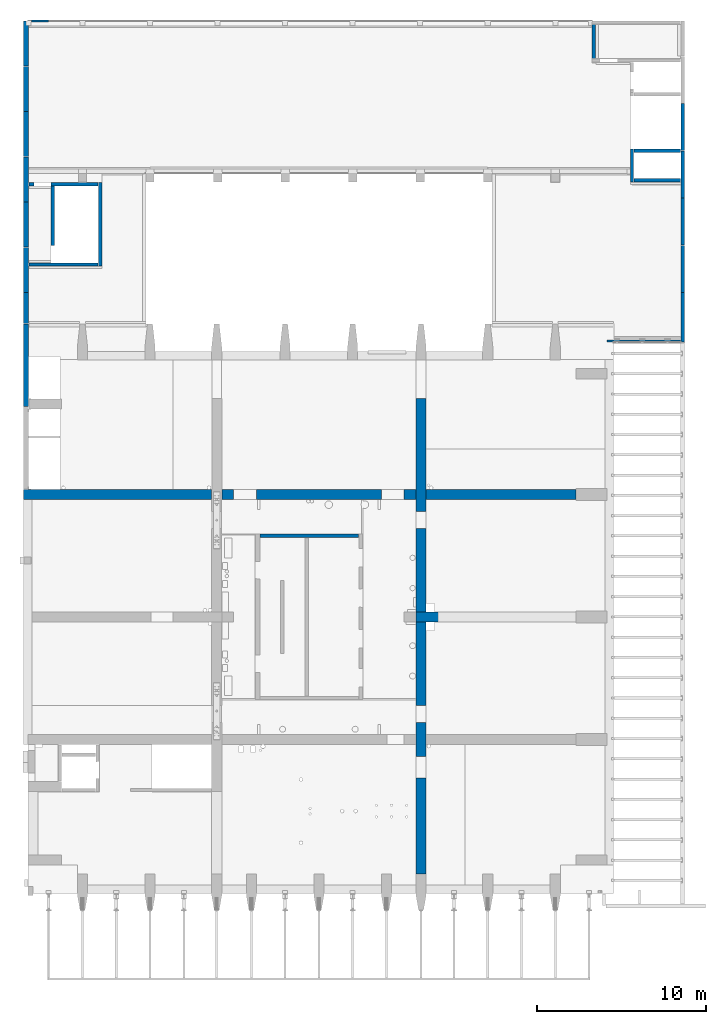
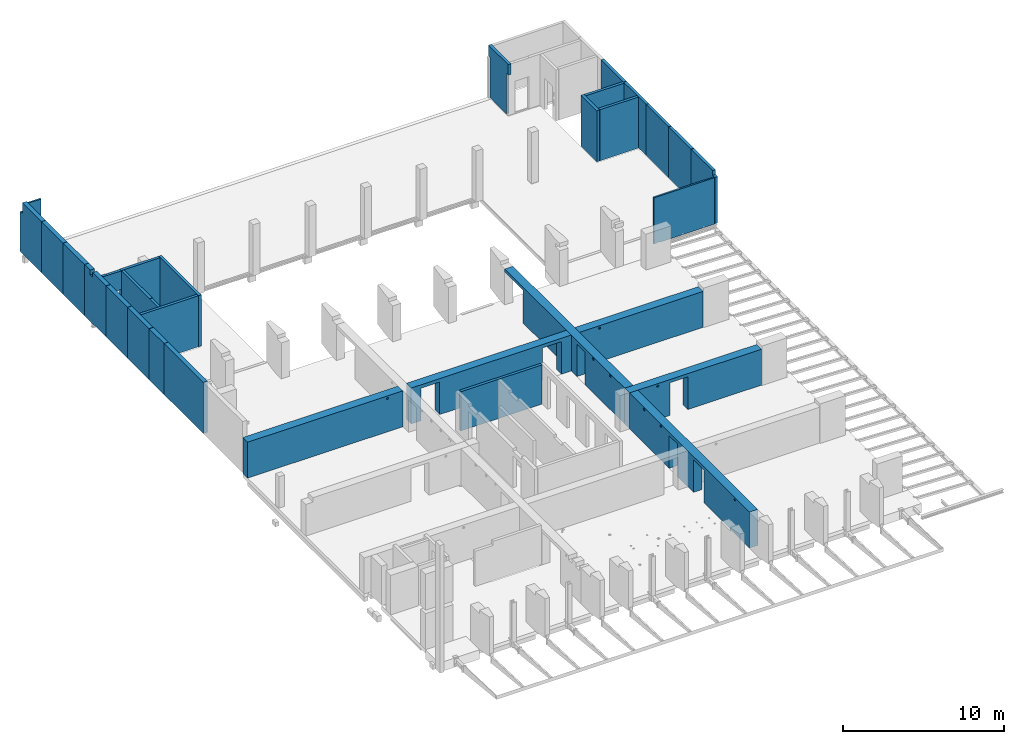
# One storey, part 21 of 27: 28 walls, 32 openings.
"""IFC2X3 building model written with IfcOpenShell, lengths in millimetres."""

from ifc_helpers import new_model, entity, si_unit, converted_unit, derived_unit, direction, frame, frame_2d, origin, origin_2d_with_axis, place, context, subcontext, project, spatial, polyline, rectangle, circle, outline, extrude, faceted_brep, material, layer, layer_set, layer_usage, type_object, element, save


model = new_model("IFC2X3")

# Units and contexts
model_context = context("Model", 3, precision=0.01, world=origin(), true_north=direction((6.12303176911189e-17, 1.0)))
body_context = subcontext(model_context, "Body", "Model", "MODEL_VIEW")
ifc_project = project(units=[si_unit("LENGTHUNIT", "METRE", prefix="MILLI"), si_unit("AREAUNIT", "SQUARE_METRE"), si_unit("VOLUMEUNIT", "CUBIC_METRE"), converted_unit("PLANEANGLEUNIT", "DEGREE", entity("IfcRatioMeasure", 0.0174532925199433), si_unit("PLANEANGLEUNIT", "RADIAN"), dimensions=[0, 0, 0, 0, 0, 0, 0]), si_unit("MASSUNIT", "GRAM", prefix="KILO"), derived_unit("MASSDENSITYUNIT", [(si_unit("MASSUNIT", "GRAM", prefix="KILO"), 1), (si_unit("LENGTHUNIT", "METRE"), -3)]), si_unit("TIMEUNIT", "SECOND"), si_unit("FREQUENCYUNIT", "HERTZ"), si_unit("THERMODYNAMICTEMPERATUREUNIT", "DEGREE_CELSIUS"), derived_unit("THERMALTRANSMITTANCEUNIT", [(si_unit("MASSUNIT", "GRAM", prefix="KILO"), 1), (si_unit("THERMODYNAMICTEMPERATUREUNIT", "KELVIN"), -1), (si_unit("TIMEUNIT", "SECOND"), -3)]), derived_unit("VOLUMETRICFLOWRATEUNIT", [(si_unit("LENGTHUNIT", "METRE"), 3), (si_unit("TIMEUNIT", "SECOND"), -1)]), si_unit("ELECTRICCURRENTUNIT", "AMPERE"), si_unit("ELECTRICVOLTAGEUNIT", "VOLT"), si_unit("POWERUNIT", "WATT"), si_unit("FORCEUNIT", "NEWTON", prefix="KILO"), si_unit("ILLUMINANCEUNIT", "LUX"), si_unit("LUMINOUSFLUXUNIT", "LUMEN"), si_unit("LUMINOUSINTENSITYUNIT", "CANDELA"), derived_unit("USERDEFINED", [(si_unit("MASSUNIT", "GRAM", prefix="KILO"), -1), (si_unit("LENGTHUNIT", "METRE"), -2), (si_unit("TIMEUNIT", "SECOND"), 3), (si_unit("LUMINOUSFLUXUNIT", "LUMEN"), 1)]), derived_unit("LINEARVELOCITYUNIT", [(si_unit("LENGTHUNIT", "METRE"), 1), (si_unit("TIMEUNIT", "SECOND"), -1)]), si_unit("PRESSUREUNIT", "PASCAL"), derived_unit("USERDEFINED", [(si_unit("LENGTHUNIT", "METRE"), -2), (si_unit("MASSUNIT", "GRAM", prefix="KILO"), 1), (si_unit("TIMEUNIT", "SECOND"), -2)])], contexts=[model_context])

# Site, building, storey
site_placement = place(None, origin())
site = spatial("IfcSite", under=ifc_project, at=site_placement, Name="Default", CompositionType="ELEMENT")
building_placement = place(site_placement, origin())
building = spatial("IfcBuilding", under=site, at=building_placement, Name="niet gebruiken", CompositionType="ELEMENT")
storey_placement = place(building_placement, frame((0.0, 0.0, 6000.0)))
storey = spatial("IfcBuildingStorey", under=building, at=storey_placement, Name="01 eerste verdieping", CompositionType="ELEMENT", Elevation=6000.0)

# Wall, opening
ifc_material_1 = material(Name="NLRS_f2_beton prefab")
ifc_layer_1 = layer(ifc_material_1, 200.0)
ifc_layer_set_1 = layer_set([ifc_layer_1], Name="Basic Wall:NLRS_21.21_WA_beton prefab d=200_gen")
ifc_layer_usage_1 = layer_usage(ifc_layer_set_1, "AXIS2", "NEGATIVE", 100.0)
wall_type_1 = type_object("IfcWallType", Name="Basic Wall:NLRS_21.21_WA_beton prefab d=200_gen", PredefinedType="STANDARD", material=ifc_layer_set_1)
wall_1_placement = place(storey_placement, frame((163290.0, 33770.0, -50.0), z_axis=(0.0, 0.0, 1.0), x_axis=(0.0, 1.0, 0.0)))
wall_1 = element("IfcWallStandardCase", 1, at=wall_1_placement, inside=storey, type_object=wall_type_1, material=ifc_layer_usage_1, Name="Basic Wall:NLRS_21.21_WA_beton prefab d=200_gen", ObjectType="Basic Wall:NLRS_21.21_WA_beton prefab d=200_gen", context=body_context, shape_type="SweptSolid", body=[
    extrude(rectangle(XDim=2930.00000000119, YDim=200.000000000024, at=frame_2d((1465.00000000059, 0.0), x_axis=(-1.0, 0.0))), origin(), (0.0, 0.0, 1.0), 3880.0),
])
opening_1_placement = place(wall_1_placement, origin())
element("IfcOpeningElement", 2, at=opening_1_placement, cuts=wall_1, Name="Basic Wall:NLRS_21.21_WA_beton prefab d=200_gen", ObjectType="Opening", context=body_context, shape_type="SweptSolid", body=[
    extrude(rectangle(XDim=359.999999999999, YDim=256.999999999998, at=frame_2d((-2.1600499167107e-12, 0.0), x_axis=(0.0, 1.0))), frame((128.499999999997, 100.0, 3700.0), z_axis=(0.0, -1.0, 0.0), x_axis=(-1.0, 0.0, 0.0)), (0.0, 0.0, 1.0), 200.0),
])

# Walls
ifc_layer_usage_2 = layer_usage(ifc_layer_set_1, "AXIS2", "NEGATIVE", 100.0)
wall_2_placement = place(storey_placement, frame((163290.0, 36720.0, -50.0), z_axis=(0.0, 0.0, 1.0), x_axis=(0.0, 1.0, 0.0)))
element("IfcWallStandardCase", 3, at=wall_2_placement, inside=storey, type_object=wall_type_1, material=ifc_layer_usage_2, Name="Basic Wall:NLRS_21.21_WA_beton prefab d=200_gen", ObjectType="Basic Wall:NLRS_21.21_WA_beton prefab d=200_gen", context=body_context, shape_type="SweptSolid", body=[
    extrude(rectangle(XDim=2780.0, YDim=200.000000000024, at=frame_2d((1390.0, 0.0), x_axis=(-1.0, 0.0))), origin(), (0.0, 0.0, 1.0), 3880.0),
])
ifc_layer_usage_3 = layer_usage(ifc_layer_set_1, "AXIS2", "NEGATIVE", 100.0)
wall_3_placement = place(storey_placement, frame((163290.0, 42320.0, -50.0), z_axis=(0.0, 0.0, 1.0), x_axis=(0.0, 1.0, 0.0)))
element("IfcWallStandardCase", 4, at=wall_3_placement, inside=storey, type_object=wall_type_1, material=ifc_layer_usage_3, Name="Basic Wall:NLRS_21.21_WA_beton prefab d=200_gen", ObjectType="Basic Wall:NLRS_21.21_WA_beton prefab d=200_gen", context=body_context, shape_type="SweptSolid", body=[
    extrude(rectangle(XDim=2780.0, YDim=200.000000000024, at=frame_2d((1390.0, 0.0), x_axis=(-1.0, 0.0))), origin(), (0.0, 0.0, 1.0), 3880.0),
])
ifc_layer_usage_4 = layer_usage(ifc_layer_set_1, "AXIS2", "NEGATIVE", 100.0)
wall_4_placement = place(storey_placement, frame((163290.0, 39520.0, -50.0), z_axis=(0.0, 0.0, 1.0), x_axis=(0.0, 1.0, 0.0)))
element("IfcWallStandardCase", 5, at=wall_4_placement, inside=storey, type_object=wall_type_1, material=ifc_layer_usage_4, Name="Basic Wall:NLRS_21.21_WA_beton prefab d=200_gen", ObjectType="Basic Wall:NLRS_21.21_WA_beton prefab d=200_gen", context=body_context, shape_type="SweptSolid", body=[
    extrude(rectangle(XDim=2780.0, YDim=200.000000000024, at=frame_2d((1390.0, 0.0), x_axis=(-1.0, 0.0))), origin(), (0.0, 0.0, 1.0), 3880.0),
])
ifc_layer_usage_5 = layer_usage(ifc_layer_set_1, "AXIS2", "NEGATIVE", 100.0)
wall_5_placement = place(storey_placement, frame((163290.0, 45120.0, -50.0), z_axis=(0.0, 0.0, 1.0), x_axis=(0.0, 1.0, 0.0)))
element("IfcWallStandardCase", 6, at=wall_5_placement, inside=storey, type_object=wall_type_1, material=ifc_layer_usage_5, Name="Basic Wall:NLRS_21.21_WA_beton prefab d=200_gen", ObjectType="Basic Wall:NLRS_21.21_WA_beton prefab d=200_gen", context=body_context, shape_type="SweptSolid", body=[
    extrude(rectangle(XDim=2780.0, YDim=200.000000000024, at=frame_2d((1390.0, 0.0), x_axis=(-1.0, 0.0))), origin(), (0.0, 0.0, 1.0), 3880.0),
])

# Wall, openings
ifc_material_2 = material(Name="NLRS_f2_beton ihwg")
ifc_layer_2 = layer(ifc_material_2, 600.0)
ifc_layer_set_2 = layer_set([ifc_layer_2], Name="Basic Wall:NLRS_22.21_WA_beton ihwg d=600_gen")
ifc_layer_usage_6 = layer_usage(ifc_layer_set_2, "AXIS2", "NEGATIVE", 300.0)
wall_type_2 = type_object("IfcWallType", Name="Basic Wall:NLRS_22.21_WA_beton ihwg d=600_gen", PredefinedType="STANDARD", material=ifc_layer_set_2)
wall_6_placement = place(storey_placement, frame((124250.0, 24750.0, -90.0)))
wall_6 = element("IfcWallStandardCase", 7, at=wall_6_placement, inside=storey, type_object=wall_type_2, material=ifc_layer_usage_6, Name="Basic Wall:NLRS_22.21_WA_beton ihwg d=600_gen", ObjectType="Basic Wall:NLRS_22.21_WA_beton ihwg d=600_gen", context=body_context, shape_type="SweptSolid", body=[
    extrude(rectangle(XDim=32730.000000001, YDim=600.000000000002, at=frame_2d((16365.0000000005, -1.70530256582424e-12), x_axis=(-1.0, 0.0))), origin(), (0.0, 0.0, 1.0), 2730.0),
])
opening_2_placement = place(storey_placement, frame((124250.0, 24750.0, -90.0)))
element("IfcOpeningElement", 8, at=opening_2_placement, cuts=wall_6, Name="Basic Wall:NLRS_22.21_WA_beton ihwg d=600_gen:1", ObjectType="Opening", context=body_context, shape_type="SweptSolid", body=[
    extrude(rectangle(XDim=2730.0, YDim=599.999999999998, at=frame_2d((5.6843418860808e-13, 2.1600499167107e-12), x_axis=(1.0, 0.0))), frame((23250.0, 0.0, 1365.0), z_axis=(1.0, 0.0, 0.0), x_axis=(0.0, 0.0, -1.0)), (0.0, 0.0, 1.0), 600.000000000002),
])
opening_3_placement = place(storey_placement, frame((124250.0, 24750.0, -90.0)))
element("IfcOpeningElement", 9, at=opening_3_placement, cuts=wall_6, Name="Basic Wall:NLRS_22.21_WA_beton ihwg d=600_gen:2", ObjectType="Opening", context=body_context, shape_type="SweptSolid", body=[
    extrude(rectangle(XDim=2730.0, YDim=599.999999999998, at=frame_2d((5.6843418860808e-13, 2.1600499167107e-12), x_axis=(1.0, 0.0))), frame((11150.0, 0.0, 1365.0), z_axis=(1.0, 0.0, 0.0), x_axis=(0.0, 0.0, -1.0)), (0.0, 0.0, 1.0), 600.000000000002),
])
opening_4_placement = place(wall_6_placement, origin())
element("IfcOpeningElement", 10, at=opening_4_placement, cuts=wall_6, Name="Basic Wall:NLRS_22.21_WA_beton ihwg d=600_gen", ObjectType="Opening", context=body_context, shape_type="SweptSolid", body=[
    extrude(rectangle(XDim=2475.0, YDim=1350.00000000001, at=frame_2d((-5.6843418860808e-13, 0.0), x_axis=(1.0, 0.0))), frame((13125.0, -300.0, 1237.5), z_axis=(0.0, 1.0, 0.0), x_axis=(0.0, 0.0, -1.0)), (0.0, 0.0, 1.0), 600.000000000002),
])
opening_5_placement = place(wall_6_placement, origin())
element("IfcOpeningElement", 11, at=opening_5_placement, cuts=wall_6, Name="Basic Wall:NLRS_22.21_WA_beton ihwg d=600_gen", ObjectType="Opening", context=body_context, shape_type="SweptSolid", body=[
    extrude(rectangle(XDim=2475.0, YDim=1350.00000000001, at=frame_2d((-5.6843418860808e-13, 0.0), x_axis=(1.0, 0.0))), frame((21875.0, -300.0, 1237.5), z_axis=(0.0, 1.0, 0.0), x_axis=(0.0, 0.0, -1.0)), (0.0, 0.0, 1.0), 600.000000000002),
])
opening_6_placement = place(wall_6_placement, origin())
element("IfcOpeningElement", 12, at=opening_6_placement, cuts=wall_6, Name="Basic Wall:NLRS_22.21_WA_beton ihwg d=600_gen", ObjectType="Opening", context=body_context, shape_type="SweptSolid", body=[
    extrude(circle(Radius=80.0, at=origin_2d_with_axis()), frame((25280.0, -300.0, 2540.0), z_axis=(0.0, 1.0, 0.0), x_axis=(1.0, 0.0, 0.0)), (0.0, 0.0, 1.0), 600.000000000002),
])
opening_7_placement = place(wall_6_placement, origin())
element("IfcOpeningElement", 13, at=opening_7_placement, cuts=wall_6, Name="Basic Wall:NLRS_22.21_WA_beton ihwg d=600_gen", ObjectType="Opening", context=body_context, shape_type="SweptSolid", body=[
    extrude(circle(Radius=80.0, at=origin_2d_with_axis()), frame((10050.0, -300.0, 2540.0), z_axis=(0.0, 1.0, 0.0), x_axis=(1.0, 0.0, 0.0)), (0.0, 0.0, 1.0), 600.000000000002),
])

ifc_layer_usage_7 = layer_usage(ifc_layer_set_2, "AXIS2", "NEGATIVE", 300.0)
wall_7_placement = place(storey_placement, frame((147800.0, 2270.0, -90.0), z_axis=(0.0, 0.0, 1.0), x_axis=(0.0, 1.0, 0.0)))
wall_7 = element("IfcWallStandardCase", 14, at=wall_7_placement, inside=storey, type_object=wall_type_2, material=ifc_layer_usage_7, Name="Basic Wall:NLRS_22.21_WA_beton ihwg d=600_gen", ObjectType="Basic Wall:NLRS_22.21_WA_beton ihwg d=600_gen", context=body_context, shape_type="SweptSolid", body=[
    extrude(rectangle(XDim=30460.0000000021, YDim=600.000000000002, at=frame_2d((15230.000000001, -5.6843418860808e-14), x_axis=(-1.0, 0.0))), origin(), (0.0, 0.0, 1.0), 2730.0),
])
opening_8_placement = place(storey_placement, frame((147800.0, 2270.0, -90.0), z_axis=(0.0, 0.0, 1.0), x_axis=(0.0, 1.0, 0.0)))
element("IfcOpeningElement", 15, at=opening_8_placement, cuts=wall_7, Name="Basic Wall:NLRS_22.21_WA_beton ihwg d=600_gen:1", ObjectType="Opening", context=body_context, shape_type="SweptSolid", body=[
    extrude(rectangle(XDim=2730.0, YDim=600.000000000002, at=origin_2d_with_axis()), frame((14930.0, 0.0, 1365.0), z_axis=(1.0, 0.0, 0.0), x_axis=(0.0, 0.0, -1.0)), (0.0, 0.0, 1.0), 600.0),
])
opening_9_placement = place(wall_7_placement, origin())
element("IfcOpeningElement", 16, at=opening_9_placement, cuts=wall_7, Name="Basic Wall:NLRS_22.21_WA_beton ihwg d=600_gen", ObjectType="Opening", context=body_context, shape_type="SweptSolid", body=[
    extrude(rectangle(XDim=2475.0, YDim=1016.0, at=frame_2d((5.6843418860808e-13, -2.1600499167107e-12), x_axis=(1.0, 0.0))), frame((20972.0, -300.0, 1237.5), z_axis=(0.0, 1.0, 0.0), x_axis=(0.0, 0.0, -1.0)), (0.0, 0.0, 1.0), 600.000000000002),
])
opening_10_placement = place(wall_7_placement, origin())
element("IfcOpeningElement", 17, at=opening_10_placement, cuts=wall_7, Name="Basic Wall:NLRS_22.21_WA_beton ihwg d=600_gen", ObjectType="Opening", context=body_context, shape_type="SweptSolid", body=[
    extrude(rectangle(XDim=2475.0, YDim=1016.0, at=frame_2d((5.6843418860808e-13, 0.0), x_axis=(1.0, 0.0))), frame((9488.0, -300.0, 1237.5), z_axis=(0.0, 1.0, 0.0), x_axis=(0.0, 0.0, -1.0)), (0.0, 0.0, 1.0), 600.000000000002),
])
opening_11_placement = place(wall_7_placement, origin())
element("IfcOpeningElement", 18, at=opening_11_placement, cuts=wall_7, Name="Basic Wall:NLRS_22.21_WA_beton ihwg d=600_gen", ObjectType="Opening", context=body_context, shape_type="SweptSolid", body=[
    extrude(rectangle(XDim=2490.0, YDim=1300.0, at=frame_2d((-5.6843418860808e-13, 0.0), x_axis=(1.0, 0.0))), frame((6330.0, -300.0, 1245.0), z_axis=(0.0, 1.0, 0.0), x_axis=(0.0, 0.0, -1.0)), (0.0, 0.0, 1.0), 600.000000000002),
])
opening_12_placement = place(wall_7_placement, origin())
element("IfcOpeningElement", 19, at=opening_12_placement, cuts=wall_7, Name="Basic Wall:NLRS_22.21_WA_beton ihwg d=600_gen", ObjectType="Opening", context=body_context, shape_type="SweptSolid", body=[
    extrude(circle(Radius=80.0, at=origin_2d_with_axis()), frame((1839.99999503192, -300.0, 2540.0), z_axis=(0.0, 1.0, 0.0), x_axis=(1.0, 0.0, 0.0)), (0.0, 0.0, 1.0), 600.000000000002),
])
opening_13_placement = place(wall_7_placement, origin())
element("IfcOpeningElement", 20, at=opening_13_placement, cuts=wall_7, Name="Basic Wall:NLRS_22.21_WA_beton ihwg d=600_gen", ObjectType="Opening", context=body_context, shape_type="SweptSolid", body=[
    extrude(circle(Radius=100.0, at=origin_2d_with_axis()), frame((11030.0, -300.0, 2570.0000069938), z_axis=(0.0, 1.0, 0.0), x_axis=(1.0, 0.0, 0.0)), (0.0, 0.0, 1.0), 600.000000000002),
])
opening_14_placement = place(wall_7_placement, origin())
element("IfcOpeningElement", 21, at=opening_14_placement, cuts=wall_7, Name="Basic Wall:NLRS_22.21_WA_beton ihwg d=600_gen", ObjectType="Opening", context=body_context, shape_type="SweptSolid", body=[
    extrude(circle(Radius=100.0, at=origin_2d_with_axis()), frame((13125.0, -300.0, 2570.0), z_axis=(0.0, 1.0, 0.0), x_axis=(1.0, 0.0, 0.0)), (0.0, 0.0, 1.0), 600.000000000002),
])
opening_15_placement = place(wall_7_placement, origin())
element("IfcOpeningElement", 22, at=opening_15_placement, cuts=wall_7, Name="Basic Wall:NLRS_22.21_WA_beton ihwg d=600_gen", ObjectType="Opening", context=body_context, shape_type="SweptSolid", body=[
    extrude(circle(Radius=100.0, at=origin_2d_with_axis()), frame((17334.9988635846, -300.0, 2570.0), z_axis=(0.0, 1.0, 0.0), x_axis=(1.0, 0.0, 0.0)), (0.0, 0.0, 1.0), 600.000000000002),
])
opening_16_placement = place(wall_7_placement, origin())
element("IfcOpeningElement", 23, at=opening_16_placement, cuts=wall_7, Name="Basic Wall:NLRS_22.21_WA_beton ihwg d=600_gen", ObjectType="Opening", context=body_context, shape_type="SweptSolid", body=[
    extrude(circle(Radius=100.0, at=origin_2d_with_axis()), frame((19430.0, -300.0, 2570.0000069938), z_axis=(0.0, 1.0, 0.0), x_axis=(1.0, 0.0, 0.0)), (0.0, 0.0, 1.0), 600.000000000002),
])
opening_17_placement = place(wall_7_placement, origin())
element("IfcOpeningElement", 24, at=opening_17_placement, cuts=wall_7, Name="Basic Wall:NLRS_22.21_WA_beton ihwg d=600_gen", ObjectType="Opening", context=body_context, shape_type="SweptSolid", body=[
    extrude(rectangle(XDim=2490.0, YDim=2300.000000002, at=frame_2d((0.0, -5.6843418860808e-13), x_axis=(0.0, 1.0))), frame((29310.0, 300.0, 1245.0), z_axis=(0.0, -1.0, 0.0), x_axis=(1.0, 0.0, 0.0)), (0.0, 0.0, 1.0), 600.0),
])

ifc_layer_usage_8 = layer_usage(ifc_layer_set_2, "AXIS2", "NEGATIVE", 300.0)
wall_8_placement = place(storey_placement, frame((147500.0, 17500.0, -90.0)))
wall_8 = element("IfcWallStandardCase", 25, at=wall_8_placement, inside=storey, type_object=wall_type_2, material=ifc_layer_usage_8, Name="Basic Wall:NLRS_22.21_WA_beton ihwg d=600_gen", ObjectType="Basic Wall:NLRS_22.21_WA_beton ihwg d=600_gen", context=body_context, shape_type="SweptSolid", body=[
    extrude(rectangle(XDim=9479.99999999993, YDim=600.000000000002, at=frame_2d((4739.99999999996, -6.25277607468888e-13), x_axis=(-1.0, 0.0))), origin(), (0.0, 0.0, 1.0), 2730.0),
])
opening_18_placement = place(wall_8_placement, origin())
element("IfcOpeningElement", 26, at=opening_18_placement, cuts=wall_8, Name="Basic Wall:NLRS_22.21_WA_beton ihwg d=600_gen", ObjectType="Opening", context=body_context, shape_type="SweptSolid", body=[
    extrude(rectangle(XDim=2490.0, YDim=1300.0, at=frame_2d((5.6843418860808e-13, -8.69704308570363e-12), x_axis=(1.0, 0.0))), frame((3550.0, -300.0, 1245.0), z_axis=(0.0, 1.0, 0.0), x_axis=(0.0, 0.0, -1.0)), (0.0, 0.0, 1.0), 600.0),
])
opening_19_placement = place(wall_8_placement, origin())
element("IfcOpeningElement", 27, at=opening_19_placement, cuts=wall_8, Name="Basic Wall:NLRS_22.21_WA_beton ihwg d=600_gen", ObjectType="Opening", context=body_context, shape_type="SweptSolid", body=[
    extrude(circle(Radius=80.0, at=origin_2d_with_axis()), frame((2030.0, -300.0, 2540.0), z_axis=(0.0, 1.0, 0.0), x_axis=(1.0, 0.0, 0.0)), (0.0, 0.0, 1.0), 600.0),
])

# Walls
ifc_layer_3 = layer(ifc_material_1, 200.0)
ifc_layer_set_3 = layer_set([ifc_layer_3], Name="Basic Wall:NLRS_22.21_WA_beton prefab d=200_gen")
ifc_layer_usage_9 = layer_usage(ifc_layer_set_3, "AXIS2", "NEGATIVE", 100.0)
wall_type_3 = type_object("IfcWallType", Name="Basic Wall:NLRS_22.21_WA_beton prefab d=200_gen", PredefinedType="STANDARD", material=ifc_layer_set_3)
wall_9_placement = place(storey_placement, frame((138270.0, 22300.0, -50.0)))
element("IfcWallStandardCase", 28, at=wall_9_placement, inside=storey, type_object=wall_type_3, material=ifc_layer_usage_9, Name="Basic Wall:NLRS_22.21_WA_beton prefab d=200_gen", ObjectType="Basic Wall:NLRS_22.21_WA_beton prefab d=200_gen", context=body_context, shape_type="SweptSolid", body=[
    extrude(rectangle(XDim=5840.00000000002, YDim=199.999999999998, at=frame_2d((2920.00000000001, -7.60280727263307e-13), x_axis=(-1.0, 0.0))), origin(), (0.0, 0.0, 1.0), 2980.0),
])
ifc_layer_usage_10 = layer_usage(ifc_layer_set_3, "AXIS2", "NEGATIVE", 100.0)
wall_10_placement = place(storey_placement, frame((160410.0, 45100.0, -50.0)))
element("IfcWallStandardCase", 29, at=wall_10_placement, inside=storey, type_object=wall_type_3, material=ifc_layer_usage_10, Name="Basic Wall:NLRS_22.21_WA_beton prefab d=200_gen", ObjectType="Basic Wall:NLRS_22.21_WA_beton prefab d=200_gen", context=body_context, shape_type="SweptSolid", body=[
    extrude(rectangle(XDim=2760.00000000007, YDim=200.000000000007, at=frame_2d((1380.00000000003, -2.27373675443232e-13), x_axis=(-1.0, 0.0))), origin(), (0.0, 0.0, 1.0), 3880.0),
])
ifc_layer_usage_11 = layer_usage(ifc_layer_set_3, "AXIS2", "NEGATIVE", 100.0)
wall_11_placement = place(storey_placement, frame((160410.0, 43350.0, -50.0)))
element("IfcWallStandardCase", 30, at=wall_11_placement, inside=storey, type_object=wall_type_3, material=ifc_layer_usage_11, Name="Basic Wall:NLRS_22.21_WA_beton prefab d=200_gen", ObjectType="Basic Wall:NLRS_22.21_WA_beton prefab d=200_gen", context=body_context, shape_type="SweptSolid", body=[
    extrude(rectangle(XDim=2760.00000000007, YDim=200.000000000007, at=frame_2d((1380.00000000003, -2.27373675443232e-13), x_axis=(-1.0, 0.0))), origin(), (0.0, 0.0, 1.0), 3880.0),
])
ifc_layer_usage_12 = layer_usage(ifc_layer_set_3, "AXIS2", "NEGATIVE", 100.0)
wall_12_placement = place(storey_placement, frame((160290.0, 43250.0, -50.0), z_axis=(0.0, 0.0, 1.0), x_axis=(0.0, 1.0, 0.0)))
element("IfcWallStandardCase", 31, at=wall_12_placement, inside=storey, type_object=wall_type_3, material=ifc_layer_usage_12, Name="Basic Wall:NLRS_22.21_WA_beton prefab d=200_gen", ObjectType="Basic Wall:NLRS_22.21_WA_beton prefab d=200_gen", context=body_context, shape_type="SweptSolid", body=[
    extrude(rectangle(XDim=1950.00000000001, YDim=200.000000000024, at=frame_2d((975.000000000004, 8.95283847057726e-13), x_axis=(-1.0, 0.0))), origin(), (0.0, 0.0, 1.0), 3880.0),
])

# Wall, openings
ifc_layer_usage_13 = layer_usage(ifc_layer_set_3, "AXIS2", "NEGATIVE", 100.0)
wall_13_placement = place(storey_placement, frame((158020.0, 50350.0, -50.0), z_axis=(0.0, 0.0, 1.0), x_axis=(0.0, 1.0, 0.0)))
wall_13 = element("IfcWallStandardCase", 32, at=wall_13_placement, inside=storey, type_object=wall_type_3, material=ifc_layer_usage_13, Name="Basic Wall:NLRS_22.21_WA_beton prefab d=200_gen", ObjectType="Basic Wall:NLRS_22.21_WA_beton prefab d=200_gen", context=body_context, shape_type="SweptSolid", body=[
    extrude(rectangle(XDim=2450.0, YDim=200.000000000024, at=frame_2d((1225.0, 0.0), x_axis=(-1.0, 0.0))), origin(), (0.0, 0.0, 1.0), 3880.0),
])
opening_20_placement = place(wall_13_placement, origin())
element("IfcOpeningElement", 33, at=opening_20_placement, cuts=wall_13, Name="Basic Wall:NLRS_22.21_WA_beton prefab d=200_gen", ObjectType="Opening", context=body_context, shape_type="SweptSolid", body=[
    extrude(rectangle(XDim=3080.0, YDim=220.000000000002, at=origin_2d_with_axis()), frame((2340.0, -100.0, 1540.0), z_axis=(0.0, 1.0, 0.0), x_axis=(0.0, 0.0, -1.0)), (0.0, 0.0, 1.0), 200.000000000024),
])
opening_21_placement = place(wall_13_placement, origin())
element("IfcOpeningElement", 34, at=opening_21_placement, cuts=wall_13, Name="Basic Wall:NLRS_22.21_WA_beton prefab d=200_gen", ObjectType="Opening", context=body_context, shape_type="SweptSolid", body=[
    extrude(rectangle(XDim=3080.0, YDim=220.000000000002, at=origin_2d_with_axis()), frame((110.0, -100.0, 1540.0), z_axis=(0.0, 1.0, 0.0), x_axis=(0.0, 0.0, -1.0)), (0.0, 0.0, 1.0), 200.000000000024),
])

ifc_layer_usage_14 = layer_usage(ifc_layer_set_3, "AXIS2", "NEGATIVE", 100.0)
wall_14_placement = place(storey_placement, frame((124570.0, 43130.0, -50.0)))
wall_14 = element("IfcWallStandardCase", 35, at=wall_14_placement, inside=storey, type_object=wall_type_3, material=ifc_layer_usage_14, Name="Basic Wall:NLRS_22.21_WA_beton prefab d=200_gen", ObjectType="Basic Wall:NLRS_22.21_WA_beton prefab d=200_gen", context=body_context, shape_type="SweptSolid", body=[
    extrude(rectangle(XDim=1329.99999999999, YDim=200.000000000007, at=frame_2d((664.999999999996, -2.35189645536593e-12), x_axis=(-1.0, 0.0))), origin(), (0.0, 0.0, 1.0), 3880.0),
])
opening_22_placement = place(wall_14_placement, origin())
element("IfcOpeningElement", 36, at=opening_22_placement, cuts=wall_14, Name="Basic Wall:NLRS_22.21_WA_beton prefab d=200_gen", ObjectType="Opening", context=body_context, shape_type="SweptSolid", body=[
    extrude(rectangle(XDim=2435.0, YDim=1015.99999999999, at=frame_2d((-5.6843418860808e-13, -8.66862137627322e-12), x_axis=(1.0, 0.0))), frame((822.0, -100.0, 1217.5), z_axis=(0.0, 1.0, 0.0), x_axis=(0.0, 0.0, -1.0)), (0.0, 0.0, 1.0), 200.000000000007),
])
opening_23_placement = place(wall_14_placement, frame((302.0, -100.0, 0.0)))
element("IfcOpeningElement", 37, at=opening_23_placement, cuts=wall_14, Name="Basic Wall:NLRS_22.21_WA_beton prefab d=200_gen", ObjectType="Opening", context=body_context, shape_type="Brep", body=[
    faceted_brep([(12.0, 200.0, 2435.0), (1028.0, 200.0, 2435.0), (1028.0, 200.0, 0.0), (12.0, 200.0, 0.0), (0.0, 0.0, 2447.0), (0.0, 0.0, 0.0), (1040.0, 0.0, 0.0), (1040.0, 0.0, 2447.0)], [[[0, 1, 2, 3]], [[4, 5, 6, 7]], [[4, 7, 1, 0]], [[7, 6, 2, 1]], [[6, 5, 3, 2]], [[5, 4, 0, 3]]]),
])
opening_24_placement = place(wall_14_placement, origin())
element("IfcOpeningElement", 38, at=opening_24_placement, cuts=wall_14, Name="Basic Wall:NLRS_22.21_WA_beton prefab d=200_gen", ObjectType="Opening", context=body_context, shape_type="SweptSolid", body=[
    extrude(rectangle(XDim=19.9999999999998, YDim=1028.00000000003, at=frame_2d((0.0, 8.64019966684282e-12), x_axis=(1.0, 0.0))), frame((816.0, -100.0, 3870.0), z_axis=(0.0, 1.0, 0.0), x_axis=(0.0, 0.0, -1.0)), (0.0, 0.0, 1.0), 200.000000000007),
])

# Wall
ifc_layer_usage_15 = layer_usage(ifc_layer_set_3, "AXIS2", "NEGATIVE", 100.0)
wall_15_placement = place(storey_placement, frame((124570.0, 38370.0, -50.0)))
element("IfcWallStandardCase", 39, at=wall_15_placement, inside=storey, type_object=wall_type_3, material=ifc_layer_usage_15, Name="Basic Wall:NLRS_22.21_WA_beton prefab d=200_gen", ObjectType="Basic Wall:NLRS_22.21_WA_beton prefab d=200_gen", context=body_context, shape_type="SweptSolid", body=[
    extrude(rectangle(XDim=4109.99999999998, YDim=199.999999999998, at=frame_2d((2054.99999999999, -3.90798504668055e-13), x_axis=(-1.0, 0.0))), origin(), (0.0, 0.0, 1.0), 3880.0),
])

# Wall, openings
ifc_layer_usage_16 = layer_usage(ifc_layer_set_3, "AXIS2", "NEGATIVE", 100.0)
wall_16_placement = place(storey_placement, frame((126000.0, 38490.0, -50.0), z_axis=(0.0, 0.0, 1.0), x_axis=(0.0, 1.0, 0.0)))
wall_16 = element("IfcWallStandardCase", 40, at=wall_16_placement, inside=storey, type_object=wall_type_3, material=ifc_layer_usage_16, Name="Basic Wall:NLRS_22.21_WA_beton prefab d=200_gen", ObjectType="Basic Wall:NLRS_22.21_WA_beton prefab d=200_gen", context=body_context, shape_type="SweptSolid", body=[
    extrude(rectangle(XDim=4520.00000000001, YDim=199.999999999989, at=frame_2d((2260.0, 0.0), x_axis=(-1.0, 0.0))), origin(), (0.0, 0.0, 1.0), 3880.0),
])
opening_25_placement = place(wall_16_placement, origin())
element("IfcOpeningElement", 41, at=opening_25_placement, cuts=wall_16, Name="Basic Wall:NLRS_22.21_WA_beton prefab d=200_gen", ObjectType="Opening", context=body_context, shape_type="SweptSolid", body=[
    extrude(rectangle(XDim=2435.0, YDim=1026.0, at=frame_2d((-5.6843418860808e-13, -2.1600499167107e-12), x_axis=(1.0, 0.0))), frame((493.0, -100.0, 1217.5), z_axis=(0.0, 1.0, 0.0), x_axis=(0.0, 0.0, -1.0)), (0.0, 0.0, 1.0), 199.999999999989),
])
opening_26_placement = place(wall_16_placement, frame((-22.0, 100.0, 0.0)))
element("IfcOpeningElement", 42, at=opening_26_placement, cuts=wall_16, Name="Basic Wall:NLRS_22.21_WA_beton prefab d=200_gen", ObjectType="Opening", context=body_context, shape_type="Brep", body=[
    faceted_brep([(1028.0, 0.0, 2435.0), (1028.0, 0.0, 0.0), (12.0, 0.0, 0.0), (12.0, 0.0, 2435.0), (1040.0, -200.0, 2447.0), (0.0, -200.0, 2447.0), (0.0, -200.0, 0.0), (1040.0, -200.0, 0.0)], [[[0, 1, 2, 3]], [[4, 5, 6, 7]], [[4, 0, 3, 5]], [[5, 3, 2, 6]], [[6, 2, 1, 7]], [[7, 1, 0, 4]]]),
])
opening_27_placement = place(wall_16_placement, origin())
element("IfcOpeningElement", 43, at=opening_27_placement, cuts=wall_16, Name="Basic Wall:NLRS_22.21_WA_beton prefab d=200_gen", ObjectType="Opening", context=body_context, shape_type="SweptSolid", body=[
    extrude(rectangle(XDim=19.9999999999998, YDim=1017.99999999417, at=origin_2d_with_axis()), frame((509.0, -100.0, 3870.0), z_axis=(0.0, 1.0, 0.0), x_axis=(0.0, 0.0, -1.0)), (0.0, 0.0, 1.0), 199.999999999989),
])

# Walls
ifc_layer_usage_17 = layer_usage(ifc_layer_set_3, "AXIS2", "NEGATIVE", 100.0)
wall_17_placement = place(storey_placement, frame((128800.0, 38270.0, -50.0), z_axis=(0.0, 0.0, 1.0), x_axis=(0.0, 1.0, 0.0)))
element("IfcWallStandardCase", 44, at=wall_17_placement, inside=storey, type_object=wall_type_3, material=ifc_layer_usage_17, Name="Basic Wall:NLRS_22.21_WA_beton prefab d=200_gen", ObjectType="Basic Wall:NLRS_22.21_WA_beton prefab d=200_gen", context=body_context, shape_type="SweptSolid", body=[
    extrude(rectangle(XDim=4960.0, YDim=199.999999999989, at=frame_2d((2480.0, 0.0), x_axis=(-1.0, 0.0))), origin(), (0.0, 0.0, 1.0), 3880.0),
])
ifc_layer_usage_18 = layer_usage(ifc_layer_set_3, "AXIS2", "NEGATIVE", 100.0)
wall_18_placement = place(storey_placement, frame((125900.0, 43130.0, -50.0)))
element("IfcWallStandardCase", 45, at=wall_18_placement, inside=storey, type_object=wall_type_3, material=ifc_layer_usage_18, Name="Basic Wall:NLRS_22.21_WA_beton prefab d=200_gen", ObjectType="Basic Wall:NLRS_22.21_WA_beton prefab d=200_gen", context=body_context, shape_type="SweptSolid", body=[
    extrude(rectangle(XDim=2779.99999999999, YDim=200.000000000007, at=frame_2d((1390.0, -2.06057393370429e-13), x_axis=(-1.0, 0.0))), origin(), (0.0, 0.0, 1.0), 3880.0),
])
ifc_layer_4 = layer(ifc_material_1, 300.0)
ifc_layer_set_4 = layer_set([ifc_layer_4], Name="Basic Wall:NLRS_22.21_WA_beton prefab d=300_gen")
ifc_layer_usage_19 = layer_usage(ifc_layer_set_4, "AXIS2", "NEGATIVE", 150.0)
wall_type_4 = type_object("IfcWallType", Name="Basic Wall:NLRS_22.21_WA_beton prefab d=300_gen", PredefinedType="STANDARD", material=ifc_layer_set_4)
wall_19_placement = place(storey_placement, frame((124400.0, 36720.0, -50.0), z_axis=(0.0, 0.0, 1.0), x_axis=(0.0, 1.0, 0.0)))
element("IfcWallStandardCase", 46, at=wall_19_placement, inside=storey, type_object=wall_type_4, material=ifc_layer_usage_19, Name="Basic Wall:NLRS_22.21_WA_beton prefab d=300_gen", ObjectType="Basic Wall:NLRS_22.21_WA_beton prefab d=300_gen", context=body_context, shape_type="SweptSolid", body=[
    extrude(rectangle(XDim=2660.00000000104, YDim=300.000000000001, at=frame_2d((1330.00000000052, 0.0), x_axis=(-1.0, 0.0))), origin(), (0.0, 0.0, 1.0), 3880.0),
])

# Wall, opening
ifc_layer_usage_20 = layer_usage(ifc_layer_set_4, "AXIS2", "NEGATIVE", 150.0)
wall_20_placement = place(storey_placement, frame((124400.0, 42080.0, -50.0), z_axis=(0.0, 0.0, 1.0), x_axis=(0.0, 1.0, 0.0)))
wall_20 = element("IfcWallStandardCase", 47, at=wall_20_placement, inside=storey, type_object=wall_type_4, material=ifc_layer_usage_20, Name="Basic Wall:NLRS_22.21_WA_beton prefab d=300_gen", ObjectType="Basic Wall:NLRS_22.21_WA_beton prefab d=300_gen", context=body_context, shape_type="SweptSolid", body=[
    extrude(rectangle(XDim=2660.0, YDim=300.000000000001, at=frame_2d((1330.0, 0.0), x_axis=(-1.0, 0.0))), origin(), (0.0, 0.0, 1.0), 3880.0),
])
opening_28_placement = place(wall_20_placement, origin())
element("IfcOpeningElement", 48, at=opening_28_placement, cuts=wall_20, Name="Basic Wall:NLRS_22.21_WA_beton prefab d=300_gen", ObjectType="Opening", context=body_context, shape_type="SweptSolid", body=[
    extrude(rectangle(XDim=360.000000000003, YDim=300.000000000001, at=frame_2d((0.0, 0.0), x_axis=(0.0, 1.0))), frame((1810.0, 150.0, 3700.0), z_axis=(0.0, -1.0, 0.0), x_axis=(-1.0, 0.0, 0.0)), (0.0, 0.0, 1.0), 300.0),
])

# Walls
ifc_layer_usage_21 = layer_usage(ifc_layer_set_4, "AXIS2", "NEGATIVE", 150.0)
wall_21_placement = place(storey_placement, frame((124400.0, 44760.0, -50.0), z_axis=(0.0, 0.0, 1.0), x_axis=(0.0, 1.0, 0.0)))
element("IfcWallStandardCase", 49, at=wall_21_placement, inside=storey, type_object=wall_type_4, material=ifc_layer_usage_21, Name="Basic Wall:NLRS_22.21_WA_beton prefab d=300_gen", ObjectType="Basic Wall:NLRS_22.21_WA_beton prefab d=300_gen", context=body_context, shape_type="SweptSolid", body=[
    extrude(rectangle(XDim=2660.0, YDim=300.000000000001, at=frame_2d((1330.0, 0.0), x_axis=(-1.0, 0.0))), origin(), (0.0, 0.0, 1.0), 3880.0),
])
ifc_layer_usage_22 = layer_usage(ifc_layer_set_4, "AXIS2", "NEGATIVE", 150.0)
wall_22_placement = place(storey_placement, frame((124400.0, 47440.0, -50.0), z_axis=(0.0, 0.0, 1.0), x_axis=(0.0, 1.0, 0.0)))
element("IfcWallStandardCase", 50, at=wall_22_placement, inside=storey, type_object=wall_type_4, material=ifc_layer_usage_22, Name="Basic Wall:NLRS_22.21_WA_beton prefab d=300_gen", ObjectType="Basic Wall:NLRS_22.21_WA_beton prefab d=300_gen", context=body_context, shape_type="SweptSolid", body=[
    extrude(rectangle(XDim=2660.00000000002, YDim=300.000000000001, at=frame_2d((1330.00000000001, 0.0), x_axis=(-1.0, 0.0))), origin(), (0.0, 0.0, 1.0), 3880.0),
])
ifc_layer_usage_23 = layer_usage(ifc_layer_set_4, "AXIS2", "NEGATIVE", 150.0)
wall_23_placement = place(storey_placement, frame((124400.0, 29970.0, -50.0), z_axis=(0.0, 0.0, 1.0), x_axis=(0.0, 1.0, 0.0)))
element("IfcWallStandardCase", 51, at=wall_23_placement, inside=storey, type_object=wall_type_4, material=ifc_layer_usage_23, Name="Basic Wall:NLRS_22.21_WA_beton prefab d=300_gen", ObjectType="Basic Wall:NLRS_22.21_WA_beton prefab d=300_gen", context=body_context, shape_type="SweptSolid", body=[
    extrude(rectangle(XDim=4879.99999999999, YDim=300.000000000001, at=frame_2d((2440.0, 0.0), x_axis=(-1.0, 0.0))), origin(), (0.0, 0.0, 1.0), 3880.0),
])
ifc_layer_usage_24 = layer_usage(ifc_layer_set_4, "AXIS2", "NEGATIVE", 150.0)
wall_24_placement = place(storey_placement, frame((124400.0, 34870.0, -50.0), z_axis=(0.0, 0.0, 1.0), x_axis=(0.0, 1.0, 0.0)))
element("IfcWallStandardCase", 52, at=wall_24_placement, inside=storey, type_object=wall_type_4, material=ifc_layer_usage_24, Name="Basic Wall:NLRS_22.21_WA_beton prefab d=300_gen", ObjectType="Basic Wall:NLRS_22.21_WA_beton prefab d=300_gen", context=body_context, shape_type="SweptSolid", body=[
    extrude(rectangle(XDim=1830.0, YDim=300.000000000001, at=frame_2d((915.000000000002, 0.0), x_axis=(-1.0, 0.0))), origin(), (0.0, 0.0, 1.0), 3880.0),
])
ifc_layer_usage_25 = layer_usage(ifc_layer_set_4, "AXIS2", "NEGATIVE", 150.0)
wall_25_placement = place(storey_placement, frame((124400.0, 39400.0, -50.0), z_axis=(0.0, 0.0, 1.0), x_axis=(0.0, 1.0, 0.0)))
element("IfcWallStandardCase", 53, at=wall_25_placement, inside=storey, type_object=wall_type_4, material=ifc_layer_usage_25, Name="Basic Wall:NLRS_22.21_WA_beton prefab d=300_gen", ObjectType="Basic Wall:NLRS_22.21_WA_beton prefab d=300_gen", context=body_context, shape_type="SweptSolid", body=[
    extrude(rectangle(XDim=2660.0, YDim=300.000000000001, at=frame_2d((1330.0, 0.0), x_axis=(-1.0, 0.0))), origin(), (0.0, 0.0, 1.0), 3880.0),
])

# Wall, opening
ifc_layer_5 = layer(ifc_material_1, 300.0)
ifc_layer_set_5 = layer_set([ifc_layer_5], Name="Basic Wall:NLRS_22.21_WA_beton prefab d=300_gen 2")
ifc_layer_usage_26 = layer_usage(ifc_layer_set_5, "AXIS2", "NEGATIVE", 150.0)
wall_type_5 = type_object("IfcWallType", Name="Basic Wall:NLRS_22.21_WA_beton prefab d=300_gen 2", PredefinedType="STANDARD", material=ifc_layer_set_5)
wall_26_placement = place(storey_placement, frame((124400.0, 50120.0, -50.0), z_axis=(0.0, 0.0, 1.0), x_axis=(0.0, 1.0, 0.0)))
wall_26 = element("IfcWallStandardCase", 54, at=wall_26_placement, inside=storey, type_object=wall_type_5, material=ifc_layer_usage_26, Name="Basic Wall:NLRS_22.21_WA_beton prefab d=300_gen 2", ObjectType="Basic Wall:NLRS_22.21_WA_beton prefab d=300_gen 2", context=body_context, shape_type="SweptSolid", body=[
    extrude(rectangle(XDim=2660.0, YDim=300.000000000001, at=frame_2d((1330.0, 0.0), x_axis=(-1.0, 0.0))), origin(), (0.0, 0.0, 1.0), 3880.0),
])
opening_29_placement = place(wall_26_placement, origin())
element("IfcOpeningElement", 55, at=opening_29_placement, cuts=wall_26, Name="Basic Wall:NLRS_22.21_WA_beton prefab d=300_gen 2", ObjectType="Opening", context=body_context, shape_type="SweptSolid", body=[
    extrude(outline(polyline([(-437.174702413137, -145.0), (411.607290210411, -145.0), (411.607290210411, 145.0), (-386.039878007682, 145.0), (-437.174702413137, -145.0)])), frame((2515.0, 150.0, 3468.39270978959), z_axis=(0.0, -1.0, 0.0), x_axis=(0.0, 0.0, 1.0)), (0.0, 0.0, 1.0), 300.0),
])

ifc_layer_6 = layer(ifc_material_1, 120.0)
ifc_layer_set_6 = layer_set([ifc_layer_6], Name="Basic Wall:NLRS_21.21_WA_beton prefab d=120_gen")
ifc_layer_usage_27 = layer_usage(ifc_layer_set_6, "AXIS2", "NEGATIVE", 60.0)
wall_type_6 = type_object("IfcWallType", Name="Basic Wall:NLRS_21.21_WA_beton prefab d=120_gen", PredefinedType="STANDARD", material=ifc_layer_set_6)
wall_27_placement = place(storey_placement, frame((158820.0, 33830.0, -70.0)))
wall_27 = element("IfcWallStandardCase", 56, at=wall_27_placement, inside=storey, type_object=wall_type_6, material=ifc_layer_usage_27, Name="Basic Wall:NLRS_21.21_WA_beton prefab d=120_gen", ObjectType="Basic Wall:NLRS_21.21_WA_beton prefab d=120_gen", context=body_context, shape_type="SweptSolid", body=[
    extrude(rectangle(XDim=4350.00000000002, YDim=119.999999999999, at=frame_2d((2175.00000000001, 4.36983782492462e-13), x_axis=(-1.0, 0.0))), origin(), (0.0, 0.0, 1.0), 3518.00000000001),
])
opening_30_placement = place(wall_27_placement, origin())
element("IfcOpeningElement", 57, at=opening_30_placement, cuts=wall_27, Name="Basic Wall:NLRS_21.21_WA_beton prefab d=120_gen", ObjectType="Opening", context=body_context, shape_type="SweptSolid", body=[
    extrude(rectangle(XDim=45.0000000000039, YDim=239.99999999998, at=frame_2d((5.41788836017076e-13, -1.73301373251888e-11), x_axis=(1.0, 0.0))), frame((295.0, -60.0, 22.5000000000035), z_axis=(0.0, 1.0, 0.0), x_axis=(0.0, 0.0, -1.0)), (0.0, 0.0, 1.0), 119.999999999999),
])

# Wall, openings
ifc_layer_usage_28 = layer_usage(ifc_layer_set_6, "AXIS2", "NEGATIVE", 60.0)
wall_28_placement = place(storey_placement, frame((125740.0, 52790.0, -70.0), z_axis=(0.0, 0.0, 1.0), x_axis=(-1.0, 0.0, 0.0)))
wall_28 = element("IfcWallStandardCase", 58, at=wall_28_placement, inside=storey, type_object=wall_type_6, material=ifc_layer_usage_28, Name="Basic Wall:NLRS_21.21_WA_beton prefab d=120_gen", ObjectType="Basic Wall:NLRS_21.21_WA_beton prefab d=120_gen", context=body_context, shape_type="SweptSolid", body=[
    extrude(rectangle(XDim=1019.99999999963, YDim=120.000000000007, at=frame_2d((509.999999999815, 2.06767936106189e-12), x_axis=(-1.0, 0.0))), origin(), (0.0, 0.0, 1.0), 3518.00000000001),
])
opening_31_placement = place(wall_28_placement, origin())
element("IfcOpeningElement", 59, at=opening_31_placement, cuts=wall_28, Name="Basic Wall:NLRS_21.21_WA_beton prefab d=120_gen", ObjectType="Opening", context=body_context, shape_type="SweptSolid", body=[
    extrude(rectangle(XDim=219.999999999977, YDim=199.999999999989, at=frame_2d((5.40012479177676e-13, -1.73301373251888e-11), x_axis=(1.0, 0.0))), frame((4290.0, -60.0, 3408.0), z_axis=(0.0, 1.0, 0.0), x_axis=(0.0, 0.0, -1.0)), (0.0, 0.0, 1.0), 120.000000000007),
])
opening_32_placement = place(wall_28_placement, origin())
element("IfcOpeningElement", 60, at=opening_32_placement, cuts=wall_28, Name="Basic Wall:NLRS_21.21_WA_beton prefab d=120_gen", ObjectType="Opening", context=body_context, shape_type="SweptSolid", body=[
    extrude(rectangle(XDim=220.000000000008, YDim=50.0000000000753, at=frame_2d((0.0, 8.66329230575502e-12), x_axis=(1.0, 0.0))), frame((995.0, -60.0, 3408.0), z_axis=(0.0, 1.0, 0.0), x_axis=(0.0, 0.0, -1.0)), (0.0, 0.0, 1.0), 120.000000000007),
])

save(model, "model.ifc")
